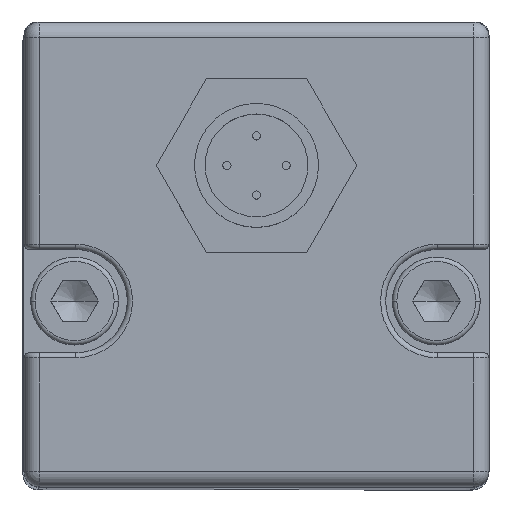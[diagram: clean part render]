
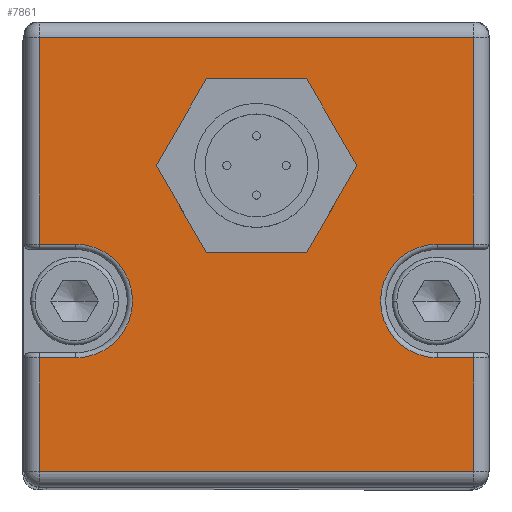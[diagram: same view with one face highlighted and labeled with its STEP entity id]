
A CAD part, top view. The second image highlights one B-rep face of the part: STEP entity #7861.
In plain terms, the highlighted planar face has unit normal (0, 0, 1) as drawn and (0, 1, 0) by its records, which use the part's own axes.
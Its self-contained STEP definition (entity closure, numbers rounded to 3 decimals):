
#87 = AXIS2_PLACEMENT_3D ( 'NONE', #3391, #3405, #3406 ) ;
#746 = ORIENTED_EDGE ( 'NONE', *, *, #8325, .T. ) ;
#747 = ORIENTED_EDGE ( 'NONE', *, *, #8328, .T. ) ;
#748 = ORIENTED_EDGE ( 'NONE', *, *, #1604, .T. ) ;
#750 = ORIENTED_EDGE ( 'NONE', *, *, #8304, .T. ) ;
#760 = ORIENTED_EDGE ( 'NONE', *, *, #1569, .T. ) ;
#762 = ORIENTED_EDGE ( 'NONE', *, *, #8322, .T. ) ;
#764 = ORIENTED_EDGE ( 'NONE', *, *, #1610, .T. ) ;
#769 = ORIENTED_EDGE ( 'NONE', *, *, #8308, .T. ) ;
#775 = ORIENTED_EDGE ( 'NONE', *, *, #1596, .T. ) ;
#778 = ORIENTED_EDGE ( 'NONE', *, *, #1574, .F. ) ;
#779 = ORIENTED_EDGE ( 'NONE', *, *, #1590, .T. ) ;
#782 = ORIENTED_EDGE ( 'NONE', *, *, #1600, .T. ) ;
#784 = ORIENTED_EDGE ( 'NONE', *, *, #1595, .T. ) ;
#785 = ORIENTED_EDGE ( 'NONE', *, *, #1609, .F. ) ;
#859 = EDGE_LOOP ( 'NONE', ( #785, #778 ) ) ;
#1534 = CARTESIAN_POINT ( 'NONE',  ( -21., 7., 22.5 ) ) ;
#1569 = EDGE_CURVE ( 'NONE', #7237, #8582, #7640, .T. ) ;
#1574 = EDGE_CURVE ( 'NONE', #7259, #8657, #7650, .T. ) ;
#1590 = EDGE_CURVE ( 'NONE', #8656, #8549, #7659, .T. ) ;
#1595 = EDGE_CURVE ( 'NONE', #8549, #8605, #7677, .T. ) ;
#1596 = EDGE_CURVE ( 'NONE', #8605, #8599, #7681, .T. ) ;
#1600 = EDGE_CURVE ( 'NONE', #8517, #7237, #7685, .T. ) ;
#1604 = EDGE_CURVE ( 'NONE', #8599, #8579, #8088, .T. ) ;
#1609 = EDGE_CURVE ( 'NONE', #8657, #7259, #8098, .T. ) ;
#1610 = EDGE_CURVE ( 'NONE', #8579, #8517, #8097, .T. ) ;
#1743 = AXIS2_PLACEMENT_3D ( 'NONE', #8659, #2500, #2501 ) ;
#1756 = AXIS2_PLACEMENT_3D ( 'NONE', #2546, #2557, #2558 ) ;
#1763 = AXIS2_PLACEMENT_3D ( 'NONE', #2579, #2592, #2594 ) ;
#1956 = EDGE_LOOP ( 'NONE', ( #779, #784, #775, #748, #764, #782, #760, #769, #762, #747, #750, #746 ) ) ;
#2500 = DIRECTION ( 'NONE',  ( 0., 1., 0. ) ) ;
#2501 = DIRECTION ( 'NONE',  ( 0., 0., 1. ) ) ;
#2538 = CARTESIAN_POINT ( 'NONE',  ( 21., 7., 9.5 ) ) ;
#2541 = DIRECTION ( 'NONE',  ( 0., 0., -1. ) ) ;
#2546 = CARTESIAN_POINT ( 'NONE',  ( 17.5, 7., 4.5 ) ) ;
#2554 = CARTESIAN_POINT ( 'NONE',  ( 22.5, 7., 10. ) ) ;
#2555 = DIRECTION ( 'NONE',  ( -1., 0., 0. ) ) ;
#2557 = DIRECTION ( 'NONE',  ( 0., -1., 0. ) ) ;
#2558 = DIRECTION ( 'NONE',  ( 0., 0., 1. ) ) ;
#2566 = CARTESIAN_POINT ( 'NONE',  ( 22.5, 7., -21. ) ) ;
#2567 = DIRECTION ( 'NONE',  ( -1., 0., 0. ) ) ;
#2571 = CARTESIAN_POINT ( 'NONE',  ( 22.5, 7., -1. ) ) ;
#2578 = DIRECTION ( 'NONE',  ( 1., 0., 0. ) ) ;
#2579 = CARTESIAN_POINT ( 'NONE',  ( 0., 7., -8.6 ) ) ;
#2582 = CARTESIAN_POINT ( 'NONE',  ( 21., 7., -22.5 ) ) ;
#2592 = DIRECTION ( 'NONE',  ( 0., 1., 0. ) ) ;
#2594 = DIRECTION ( 'NONE',  ( 0., 0., 1. ) ) ;
#2598 = DIRECTION ( 'NONE',  ( 0., 0., -1. ) ) ;
#2922 = CARTESIAN_POINT ( 'NONE',  ( -21., 7., -21. ) ) ;
#2944 = CARTESIAN_POINT ( 'NONE',  ( 0., 7., -15.1 ) ) ;
#3391 = CARTESIAN_POINT ( 'NONE',  ( 22.5, 7., 22.5 ) ) ;
#3404 = PLANE ( 'NONE',  #87 ) ;
#3405 = DIRECTION ( 'NONE',  ( 0., 1., 0. ) ) ;
#3406 = DIRECTION ( 'NONE',  ( 0., 0., 1. ) ) ;
#3962 = FACE_BOUND ( 'NONE', #859, .T. ) ;
#3963 = FACE_OUTER_BOUND ( 'NONE', #1956, .T. ) ;
#5436 = AXIS2_PLACEMENT_3D ( 'NONE', #9227, #9232, #9233 ) ;
#5888 = LINE ( 'NONE', #9200, #5889 ) ;
#5889 = VECTOR ( 'NONE', #9201, 1000. ) ;
#5890 = LINE ( 'NONE', #9178, #5896 ) ;
#5896 = VECTOR ( 'NONE', #9192, 1000. ) ;
#5916 = LINE ( 'NONE', #9246, #5927 ) ;
#5927 = VECTOR ( 'NONE', #9247, 1000. ) ;
#5929 = CIRCLE ( 'NONE', #5436, 5.5 ) ;
#5932 = LINE ( 'NONE', #9239, #5933 ) ;
#5933 = VECTOR ( 'NONE', #9240, 1000. ) ;
#6771 = DIRECTION ( 'NONE',  ( 0., 0., 1. ) ) ;
#7237 = VERTEX_POINT ( 'NONE', #2922 ) ;
#7259 = VERTEX_POINT ( 'NONE', #2944 ) ;
#7638 = VECTOR ( 'NONE', #6771, 1000. ) ;
#7640 = LINE ( 'NONE', #1534, #7638 ) ;
#7650 = CIRCLE ( 'NONE', #1743, 6.5 ) ;
#7659 = LINE ( 'NONE', #2538, #7670 ) ;
#7670 = VECTOR ( 'NONE', #2541, 1000. ) ;
#7677 = LINE ( 'NONE', #2554, #7678 ) ;
#7678 = VECTOR ( 'NONE', #2555, 1000. ) ;
#7681 = CIRCLE ( 'NONE', #1756, 5.5 ) ;
#7685 = LINE ( 'NONE', #2566, #7686 ) ;
#7686 = VECTOR ( 'NONE', #2567, 1000. ) ;
#7861 = ADVANCED_FACE ( 'NONE', ( #3962, #3963 ), #3404, .T. ) ;
#8086 = VECTOR ( 'NONE', #2578, 1000. ) ;
#8088 = LINE ( 'NONE', #2571, #8086 ) ;
#8091 = VECTOR ( 'NONE', #2598, 1000. ) ;
#8097 = LINE ( 'NONE', #2582, #8091 ) ;
#8098 = CIRCLE ( 'NONE', #1763, 6.5 ) ;
#8304 = EDGE_CURVE ( 'NONE', #8670, #8569, #5890, .T. ) ;
#8308 = EDGE_CURVE ( 'NONE', #8582, #8652, #5888, .T. ) ;
#8322 = EDGE_CURVE ( 'NONE', #8652, #8651, #5929, .T. ) ;
#8325 = EDGE_CURVE ( 'NONE', #8569, #8656, #5932, .T. ) ;
#8328 = EDGE_CURVE ( 'NONE', #8651, #8670, #5916, .T. ) ;
#8517 = VERTEX_POINT ( 'NONE', #9424 ) ;
#8549 = VERTEX_POINT ( 'NONE', #9456 ) ;
#8569 = VERTEX_POINT ( 'NONE', #9473 ) ;
#8579 = VERTEX_POINT ( 'NONE', #9483 ) ;
#8582 = VERTEX_POINT ( 'NONE', #9486 ) ;
#8599 = VERTEX_POINT ( 'NONE', #9503 ) ;
#8605 = VERTEX_POINT ( 'NONE', #9509 ) ;
#8651 = VERTEX_POINT ( 'NONE', #9546 ) ;
#8652 = VERTEX_POINT ( 'NONE', #9547 ) ;
#8656 = VERTEX_POINT ( 'NONE', #9549 ) ;
#8657 = VERTEX_POINT ( 'NONE', #9550 ) ;
#8659 = CARTESIAN_POINT ( 'NONE',  ( 0., 7., -8.6 ) ) ;
#8670 = VERTEX_POINT ( 'NONE', #9554 ) ;
#9178 = CARTESIAN_POINT ( 'NONE',  ( -21., 7., 22.5 ) ) ;
#9192 = DIRECTION ( 'NONE',  ( 0., 0., 1. ) ) ;
#9200 = CARTESIAN_POINT ( 'NONE',  ( 22.5, 7., -1. ) ) ;
#9201 = DIRECTION ( 'NONE',  ( 1., 0., 0. ) ) ;
#9227 = CARTESIAN_POINT ( 'NONE',  ( -17.5, 7., 4.5 ) ) ;
#9232 = DIRECTION ( 'NONE',  ( 0., -1., 0. ) ) ;
#9233 = DIRECTION ( 'NONE',  ( 0., 0., 1. ) ) ;
#9239 = CARTESIAN_POINT ( 'NONE',  ( 22.5, 7., 21. ) ) ;
#9240 = DIRECTION ( 'NONE',  ( 1., 0., 0. ) ) ;
#9246 = CARTESIAN_POINT ( 'NONE',  ( 22.5, 7., 10. ) ) ;
#9247 = DIRECTION ( 'NONE',  ( -1., 0., 0. ) ) ;
#9424 = CARTESIAN_POINT ( 'NONE',  ( 21., 7., -21. ) ) ;
#9456 = CARTESIAN_POINT ( 'NONE',  ( 21., 7., 10. ) ) ;
#9473 = CARTESIAN_POINT ( 'NONE',  ( -21., 7., 21. ) ) ;
#9483 = CARTESIAN_POINT ( 'NONE',  ( 21., 7., -1. ) ) ;
#9486 = CARTESIAN_POINT ( 'NONE',  ( -21., 7., -1. ) ) ;
#9503 = CARTESIAN_POINT ( 'NONE',  ( 17.5, 7., -1. ) ) ;
#9509 = CARTESIAN_POINT ( 'NONE',  ( 17.5, 7., 10. ) ) ;
#9546 = CARTESIAN_POINT ( 'NONE',  ( -17.5, 7., 10. ) ) ;
#9547 = CARTESIAN_POINT ( 'NONE',  ( -17.5, 7., -1. ) ) ;
#9549 = CARTESIAN_POINT ( 'NONE',  ( 21., 7., 21. ) ) ;
#9550 = CARTESIAN_POINT ( 'NONE',  ( 0., 7., -2.1 ) ) ;
#9554 = CARTESIAN_POINT ( 'NONE',  ( -21., 7., 10. ) ) ;
